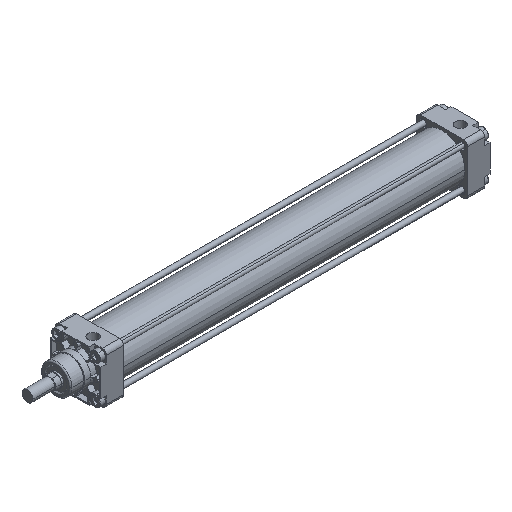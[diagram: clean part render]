
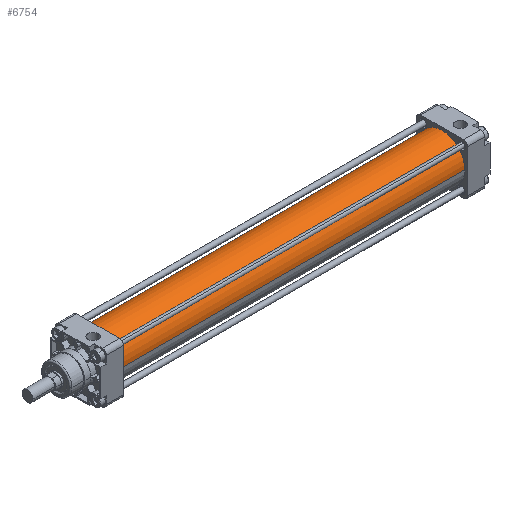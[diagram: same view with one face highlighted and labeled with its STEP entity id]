
A CAD part, isometric view. The second image highlights one B-rep face of the part: STEP entity #6754.
In plain terms, the highlighted cylindrical face has radius 33.5 mm (diameter 67 mm), a partial arc.
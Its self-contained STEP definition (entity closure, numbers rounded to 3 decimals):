
#6391=CARTESIAN_POINT('Vertex',(505.,-33.5,0.)) ;
#6393=CARTESIAN_POINT('Vertex',(505.,33.5,0.)) ;
#6396=CARTESIAN_POINT('Axis2P3D Location',(505.,0.,0.)) ;
#6724=CARTESIAN_POINT('Axis2P3D Location',(252.5,0.,0.)) ;
#6729=CARTESIAN_POINT('Line Origine',(252.5,33.5,0.)) ;
#6733=CARTESIAN_POINT('Vertex',(0.,33.5,0.)) ;
#6736=CARTESIAN_POINT('Axis2P3D Location',(0.,0.,0.)) ;
#6740=CARTESIAN_POINT('Vertex',(0.,-33.5,0.)) ;
#6743=CARTESIAN_POINT('Line Origine',(252.5,-33.5,0.)) ;
#6397=DIRECTION('Axis2P3D Direction',(1.,0.,0.)) ;
#6725=DIRECTION('Axis2P3D Direction',(1.,0.,0.)) ;
#6726=DIRECTION('Axis2P3D XDirection',(0.,1.,0.)) ;
#6730=DIRECTION('Vector Direction',(1.,0.,0.)) ;
#6737=DIRECTION('Axis2P3D Direction',(1.,0.,0.)) ;
#6744=DIRECTION('Vector Direction',(1.,0.,0.)) ;
#6398=AXIS2_PLACEMENT_3D('Circle Axis2P3D',#6396,#6397,$) ;
#6727=AXIS2_PLACEMENT_3D('Cylinder Axis2P3D',#6724,#6725,#6726) ;
#6738=AXIS2_PLACEMENT_3D('Circle Axis2P3D',#6736,#6737,$) ;
#6749=ORIENTED_EDGE('',*,*,#6735,.F.) ;
#6750=ORIENTED_EDGE('',*,*,#6742,.T.) ;
#6751=ORIENTED_EDGE('',*,*,#6747,.T.) ;
#6752=ORIENTED_EDGE('',*,*,#6400,.F.) ;
#6731=VECTOR('Line Direction',#6730,1.) ;
#6745=VECTOR('Line Direction',#6744,1.) ;
#6754=ADVANCED_FACE('PartBody',(#6753),#6728,.T.) ;
#6399=CIRCLE('generated circle',#6398,33.5) ;
#6739=CIRCLE('generated circle',#6738,33.5) ;
#6728=CYLINDRICAL_SURFACE('generated cylinder',#6727,33.5) ;
#6400=EDGE_CURVE('',#6394,#6392,#6399,.T.) ;
#6735=EDGE_CURVE('',#6734,#6394,#6732,.T.) ;
#6742=EDGE_CURVE('',#6734,#6741,#6739,.T.) ;
#6747=EDGE_CURVE('',#6741,#6392,#6746,.T.) ;
#6748=EDGE_LOOP('',(#6749,#6750,#6751,#6752)) ;
#6753=FACE_OUTER_BOUND('',#6748,.T.) ;
#6732=LINE('Line',#6729,#6731) ;
#6746=LINE('Line',#6743,#6745) ;
#6392=VERTEX_POINT('',#6391) ;
#6394=VERTEX_POINT('',#6393) ;
#6734=VERTEX_POINT('',#6733) ;
#6741=VERTEX_POINT('',#6740) ;
